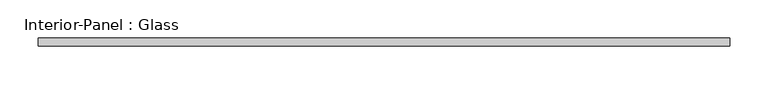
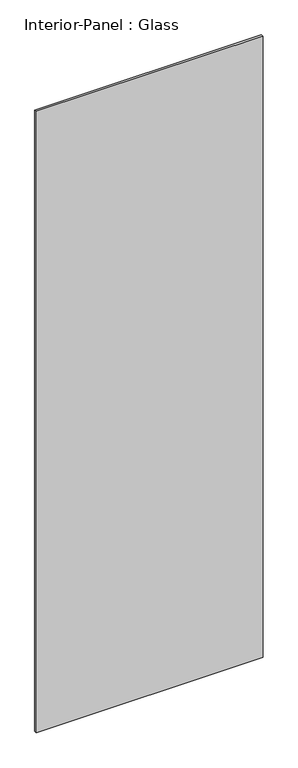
"""IFC4 building model written with IfcOpenShell, lengths in millimetres: plate geometry, Interior-Panel : Glass."""

from ifc_helpers import new_model, si_unit, origin, origin_with_axes, place, context, project, spatial, polyline, outline, extrude, source, transform, mapped, element, save


def interior_panel_glass_b28fc904(model_context):
    return source(origin(), model_context, "Body", "SweptSolid", [
        extrude(outline(polyline([(448.8188204, 50.0), (448.8188204, 40.0), (-448.8188204, 40.0), (-448.8188204, 50.0), (448.8188204, 50.0)])), origin_with_axes(), (0.0, 0.0, 1.0), 2600.0),
    ])


if __name__ == "__main__":
    model = new_model("IFC4")
    model_context = context("Model", 3, world=origin())
    ifc_project = project(units=[si_unit("LENGTHUNIT", "METRE", prefix="MILLI")], contexts=[model_context])
    site = spatial("IfcSite", under=ifc_project)
    building = spatial("IfcBuilding", under=site)
    placement = place(None, origin())
    interior_panel_glass_shape = interior_panel_glass_b28fc904(model_context)
    element("IfcPlate", 1, ObjectType="Interior-Panel : Glass", at=placement, inside=building, context=model_context, shape_type="MappedRepresentation", body=[
        mapped(interior_panel_glass_shape, transform((0.0, 0.0, 0.0), x_axis=(1.0, 0.0, 0.0), y_axis=(0.0, 1.0, 0.0), z_axis=(0.0, 0.0, 1.0))),
    ])
    save(model, "model.ifc")
